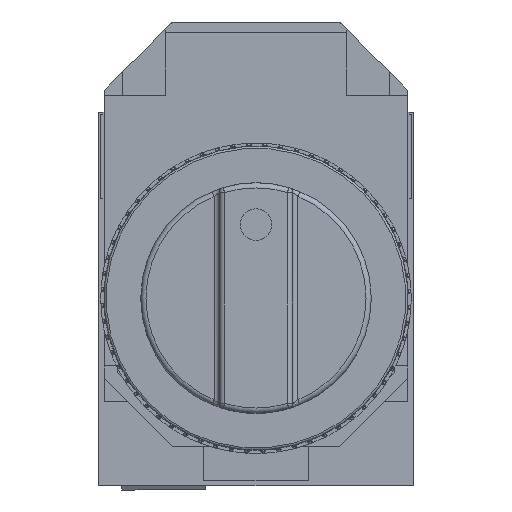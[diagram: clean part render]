
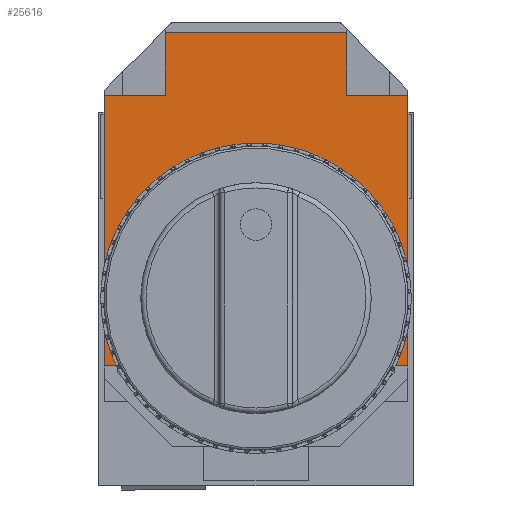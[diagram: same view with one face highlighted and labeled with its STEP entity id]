
A CAD part, top view. The second image highlights one B-rep face of the part: STEP entity #25616.
In plain terms, the highlighted planar face has unit normal (0, 0, 1).
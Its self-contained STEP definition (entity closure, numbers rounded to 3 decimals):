
#25428=CARTESIAN_POINT('',(8.65,19.4,-16.5));
#25429=VERTEX_POINT('',#25428);
#25436=CARTESIAN_POINT('',(14.5,19.4,-16.5));
#25437=VERTEX_POINT('',#25436);
#25438=CARTESIAN_POINT('',(14.5,19.4,-16.5));
#25439=DIRECTION('',(-1.0,0.0,0.0));
#25440=VECTOR('',#25439,5.85);
#25441=LINE('',#25438,#25440);
#25442=EDGE_CURVE('',#25437,#25429,#25441,.T.);
#25526=CARTESIAN_POINT('',(0.,6.15,-16.5));
#25527=DIRECTION('',(0.0,0.0,1.0));
#25528=DIRECTION('',(1.0,0.0,0.0));
#25529=AXIS2_PLACEMENT_3D('',#25526,#25527,#25528);
#25530=PLANE('',#25529);
#25531=CARTESIAN_POINT('',(-8.65,25.4,-16.5));
#25532=VERTEX_POINT('',#25531);
#25533=CARTESIAN_POINT('',(8.65,25.4,-16.5));
#25534=VERTEX_POINT('',#25533);
#25535=CARTESIAN_POINT('',(-8.65,25.4,-16.5));
#25536=DIRECTION('',(1.0,0.0,0.0));
#25537=VECTOR('',#25536,17.3);
#25538=LINE('',#25535,#25537);
#25539=EDGE_CURVE('',#25532,#25534,#25538,.T.);
#25540=ORIENTED_EDGE('',*,*,#25539,.F.);
#25541=CARTESIAN_POINT('',(-8.65,19.4,-16.5));
#25542=VERTEX_POINT('',#25541);
#25543=CARTESIAN_POINT('',(-8.65,19.4,-16.5));
#25544=DIRECTION('',(0.0,1.0,0.0));
#25545=VECTOR('',#25544,6.0);
#25546=LINE('',#25543,#25545);
#25547=EDGE_CURVE('',#25542,#25532,#25546,.T.);
#25548=ORIENTED_EDGE('',*,*,#25547,.F.);
#25549=CARTESIAN_POINT('',(-14.5,19.4,-16.5));
#25550=VERTEX_POINT('',#25549);
#25551=CARTESIAN_POINT('',(-8.65,19.4,-16.5));
#25552=DIRECTION('',(-1.0,0.0,0.0));
#25553=VECTOR('',#25552,5.85);
#25554=LINE('',#25551,#25553);
#25555=EDGE_CURVE('',#25542,#25550,#25554,.T.);
#25556=ORIENTED_EDGE('',*,*,#25555,.T.);
#25557=CARTESIAN_POINT('',(-14.5,-6.4,-16.5));
#25558=VERTEX_POINT('',#25557);
#25559=CARTESIAN_POINT('',(-14.5,-6.4,-16.5));
#25560=DIRECTION('',(0.0,1.0,0.0));
#25561=VECTOR('',#25560,25.8);
#25562=LINE('',#25559,#25561);
#25563=EDGE_CURVE('',#25558,#25550,#25562,.T.);
#25564=ORIENTED_EDGE('',*,*,#25563,.F.);
#25565=CARTESIAN_POINT('',(-10.269,-6.4,-16.5));
#25566=VERTEX_POINT('',#25565);
#25567=CARTESIAN_POINT('',(-14.5,-6.4,-16.5));
#25568=DIRECTION('',(1.0,0.0,0.0));
#25569=VECTOR('',#25568,4.231);
#25570=LINE('',#25567,#25569);
#25571=EDGE_CURVE('',#25558,#25566,#25570,.T.);
#25572=ORIENTED_EDGE('',*,*,#25571,.T.);
#25573=CARTESIAN_POINT('',(10.269,-6.4,-16.5));
#25574=VERTEX_POINT('',#25573);
#25575=CARTESIAN_POINT('',(0.,0.,-16.5));
#25576=DIRECTION('',(0.,0.,1.0));
#25577=DIRECTION('',(-0.849,-0.529,0.));
#25578=AXIS2_PLACEMENT_3D('',#25575,#25576,#25577);
#25579=CIRCLE('',#25578,12.1);
#25580=EDGE_CURVE('',#25566,#25574,#25579,.T.);
#25581=ORIENTED_EDGE('',*,*,#25580,.T.);
#25582=CARTESIAN_POINT('',(14.5,-6.4,-16.5));
#25583=VERTEX_POINT('',#25582);
#25584=CARTESIAN_POINT('',(10.269,-6.4,-16.5));
#25585=DIRECTION('',(1.0,0.0,0.0));
#25586=VECTOR('',#25585,4.231);
#25587=LINE('',#25584,#25586);
#25588=EDGE_CURVE('',#25574,#25583,#25587,.T.);
#25589=ORIENTED_EDGE('',*,*,#25588,.T.);
#25590=CARTESIAN_POINT('',(14.5,19.4,-16.5));
#25591=DIRECTION('',(0.0,-1.0,0.0));
#25592=VECTOR('',#25591,25.8);
#25593=LINE('',#25590,#25592);
#25594=EDGE_CURVE('',#25437,#25583,#25593,.T.);
#25595=ORIENTED_EDGE('',*,*,#25594,.F.);
#25596=ORIENTED_EDGE('',*,*,#25442,.T.);
#25597=CARTESIAN_POINT('',(8.65,25.4,-16.5));
#25598=DIRECTION('',(0.0,-1.0,0.0));
#25599=VECTOR('',#25598,6.);
#25600=LINE('',#25597,#25599);
#25601=EDGE_CURVE('',#25534,#25429,#25600,.T.);
#25602=ORIENTED_EDGE('',*,*,#25601,.F.);
#25603=EDGE_LOOP('',(#25540,#25548,#25556,#25564,#25572,#25581,#25589,#25595,#25596,#25602));
#25604=FACE_OUTER_BOUND('',#25603,.T.);
#25605=CARTESIAN_POINT('',(10.6,0.,-16.5));
#25606=VERTEX_POINT('',#25605);
#25607=CARTESIAN_POINT('',(0.,0.,-16.5));
#25608=DIRECTION('',(0.0,0.0,1.0));
#25609=DIRECTION('',(-1.0,0.0,0.0));
#25610=AXIS2_PLACEMENT_3D('',#25607,#25608,#25609);
#25611=CIRCLE('',#25610,10.6);
#25612=EDGE_CURVE('',#25606,#25606,#25611,.T.);
#25613=ORIENTED_EDGE('',*,*,#25612,.F.);
#25614=EDGE_LOOP('',(#25613));
#25615=FACE_BOUND('',#25614,.T.);
#25616=ADVANCED_FACE('',(#25604,#25615),#25530,.T.);
